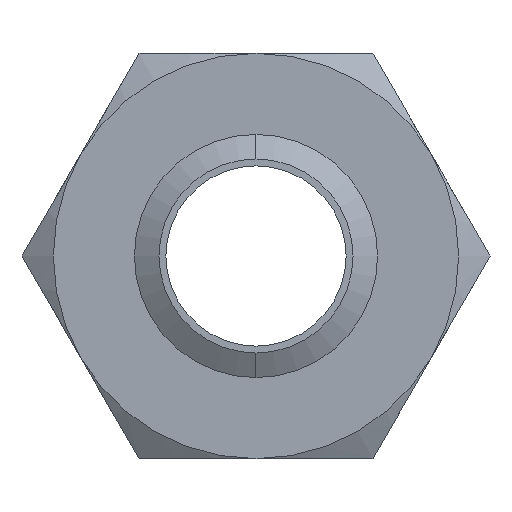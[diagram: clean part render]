
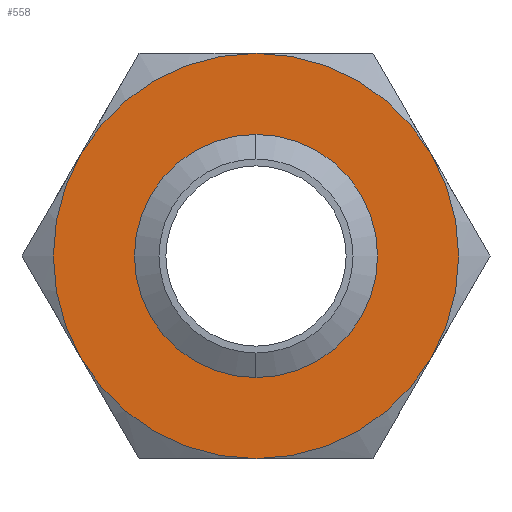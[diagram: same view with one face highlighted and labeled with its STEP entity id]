
A CAD part, front view. The second image highlights one B-rep face of the part: STEP entity #558.
In plain terms, the highlighted planar face has unit normal (0, -1, 0).
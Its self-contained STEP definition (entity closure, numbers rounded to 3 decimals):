
#553 = ORIENTED_EDGE ( 'NONE', *, *, #554, .F. ) ;
#554 = EDGE_CURVE ( 'NONE', #563, #562, #1689, .T. ) ;
#555 = ORIENTED_EDGE ( 'NONE', *, *, #561, .F. ) ;
#556 = VERTEX_POINT ( 'NONE', #1690 ) ;
#557 = VERTEX_POINT ( 'NONE', #1684 ) ;
#558 = ADVANCED_FACE ( 'NONE', ( #1683, #1682 ), #1745, .F. ) ;
#560 = EDGE_LOOP ( 'NONE', ( #555, #565, #553, #564, #626, #636 ) ) ;
#561 = EDGE_CURVE ( 'NONE', #556, #557, #1735, .T. ) ;
#562 = VERTEX_POINT ( 'NONE', #1736 ) ;
#563 = VERTEX_POINT ( 'NONE', #1730 ) ;
#564 = ORIENTED_EDGE ( 'NONE', *, *, #590, .F. ) ;
#565 = ORIENTED_EDGE ( 'NONE', *, *, #566, .F. ) ;
#566 = EDGE_CURVE ( 'NONE', #562, #556, #1729, .T. ) ;
#590 = EDGE_CURVE ( 'NONE', #628, #563, #1806, .T. ) ;
#624 = EDGE_CURVE ( 'NONE', #557, #627, #1808, .T. ) ;
#625 = EDGE_LOOP ( 'NONE', ( #630, #629 ) ) ;
#626 = ORIENTED_EDGE ( 'NONE', *, *, #634, .F. ) ;
#627 = VERTEX_POINT ( 'NONE', #1867 ) ;
#628 = VERTEX_POINT ( 'NONE', #1866 ) ;
#629 = ORIENTED_EDGE ( 'NONE', *, *, #631, .F. ) ;
#630 = ORIENTED_EDGE ( 'NONE', *, *, #808, .F. ) ;
#631 = EDGE_CURVE ( 'NONE', #722, #845, #1865, .T. ) ;
#634 = EDGE_CURVE ( 'NONE', #627, #628, #1852, .T. ) ;
#636 = ORIENTED_EDGE ( 'NONE', *, *, #624, .F. ) ;
#722 = VERTEX_POINT ( 'NONE', #1841 ) ;
#808 = EDGE_CURVE ( 'NONE', #845, #722, #1901, .T. ) ;
#845 = VERTEX_POINT ( 'NONE', #1896 ) ;
#1682 = FACE_BOUND ( 'NONE', #625, .T. ) ;
#1683 = FACE_OUTER_BOUND ( 'NONE', #560, .T. ) ;
#1684 = CARTESIAN_POINT ( 'NONE',  ( 21.651, 0., 12.5 ) ) ;
#1685 = DIRECTION ( 'NONE',  ( 0., 0., 1. ) ) ;
#1686 = DIRECTION ( 'NONE',  ( 0., 1., 0. ) ) ;
#1687 = CARTESIAN_POINT ( 'NONE',  ( 0., 0., 0. ) ) ;
#1688 = AXIS2_PLACEMENT_3D ( 'NONE', #1687, #1686, #1685 ) ;
#1689 = CIRCLE ( 'NONE', #1688, 25. ) ;
#1690 = CARTESIAN_POINT ( 'NONE',  ( 0., 0., 25. ) ) ;
#1725 = DIRECTION ( 'NONE',  ( 0., 0., 1. ) ) ;
#1726 = DIRECTION ( 'NONE',  ( 0., 1., 0. ) ) ;
#1727 = CARTESIAN_POINT ( 'NONE',  ( 0., 0., 0. ) ) ;
#1728 = AXIS2_PLACEMENT_3D ( 'NONE', #1727, #1726, #1725 ) ;
#1729 = CIRCLE ( 'NONE', #1728, 25. ) ;
#1730 = CARTESIAN_POINT ( 'NONE',  ( -21.651, 0., -12.5 ) ) ;
#1731 = DIRECTION ( 'NONE',  ( 0., 0., 1. ) ) ;
#1732 = DIRECTION ( 'NONE',  ( 0., 1., 0. ) ) ;
#1733 = CARTESIAN_POINT ( 'NONE',  ( 0., 0., 0. ) ) ;
#1734 = AXIS2_PLACEMENT_3D ( 'NONE', #1733, #1732, #1731 ) ;
#1735 = CIRCLE ( 'NONE', #1734, 25. ) ;
#1736 = CARTESIAN_POINT ( 'NONE',  ( -21.651, 0., 12.5 ) ) ;
#1741 = DIRECTION ( 'NONE',  ( 0., 0., 1. ) ) ;
#1742 = DIRECTION ( 'NONE',  ( 0., 1., 0. ) ) ;
#1743 = CARTESIAN_POINT ( 'NONE',  ( 14.434, 0., -25. ) ) ;
#1744 = AXIS2_PLACEMENT_3D ( 'NONE', #1743, #1742, #1741 ) ;
#1745 = PLANE ( 'NONE',  #1744 ) ;
#1746 = CARTESIAN_POINT ( 'NONE',  ( 0., 0., 0. ) ) ;
#1803 = DIRECTION ( 'NONE',  ( 0., 0., 1. ) ) ;
#1804 = DIRECTION ( 'NONE',  ( 0., 1., 0. ) ) ;
#1805 = AXIS2_PLACEMENT_3D ( 'NONE', #1746, #1804, #1803 ) ;
#1806 = CIRCLE ( 'NONE', #1805, 25. ) ;
#1808 = CIRCLE ( 'NONE', #1871, 25. ) ;
#1841 = CARTESIAN_POINT ( 'NONE',  ( 0., 0., 11.969 ) ) ;
#1849 = DIRECTION ( 'NONE',  ( 0., 0., 1. ) ) ;
#1850 = DIRECTION ( 'NONE',  ( 0., 1., 0. ) ) ;
#1851 = AXIS2_PLACEMENT_3D ( 'NONE', #1856, #1850, #1849 ) ;
#1852 = CIRCLE ( 'NONE', #1851, 25. ) ;
#1856 = CARTESIAN_POINT ( 'NONE',  ( 0., 0., 0. ) ) ;
#1861 = DIRECTION ( 'NONE',  ( 0., 0., -1. ) ) ;
#1862 = DIRECTION ( 'NONE',  ( 0., -1., 0. ) ) ;
#1863 = CARTESIAN_POINT ( 'NONE',  ( 0., 0., 0. ) ) ;
#1864 = AXIS2_PLACEMENT_3D ( 'NONE', #1863, #1862, #1861 ) ;
#1865 = CIRCLE ( 'NONE', #1864, 11.969 ) ;
#1866 = CARTESIAN_POINT ( 'NONE',  ( 0., 0., -25. ) ) ;
#1867 = CARTESIAN_POINT ( 'NONE',  ( 21.651, 0., -12.5 ) ) ;
#1868 = DIRECTION ( 'NONE',  ( 0., 0., 1. ) ) ;
#1869 = DIRECTION ( 'NONE',  ( 0., 1., 0. ) ) ;
#1870 = CARTESIAN_POINT ( 'NONE',  ( 0., 0., 0. ) ) ;
#1871 = AXIS2_PLACEMENT_3D ( 'NONE', #1870, #1869, #1868 ) ;
#1896 = CARTESIAN_POINT ( 'NONE',  ( 0., 0., -11.969 ) ) ;
#1897 = DIRECTION ( 'NONE',  ( 0., 0., -1. ) ) ;
#1898 = DIRECTION ( 'NONE',  ( 0., -1., 0. ) ) ;
#1899 = CARTESIAN_POINT ( 'NONE',  ( 0., 0., 0. ) ) ;
#1900 = AXIS2_PLACEMENT_3D ( 'NONE', #1899, #1898, #1897 ) ;
#1901 = CIRCLE ( 'NONE', #1900, 11.969 ) ;
